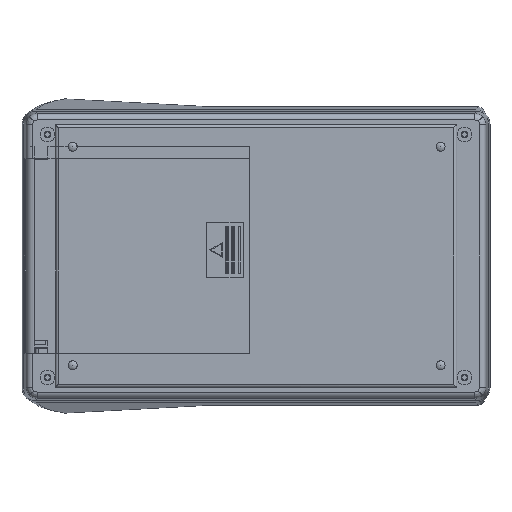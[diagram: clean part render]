
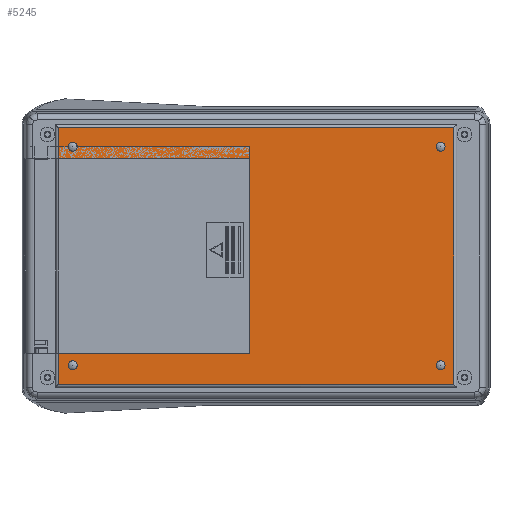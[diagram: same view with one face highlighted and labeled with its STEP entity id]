
A CAD part, front view. The second image highlights one B-rep face of the part: STEP entity #5245.
In plain terms, the highlighted planar face has unit normal (0, -1, 0).
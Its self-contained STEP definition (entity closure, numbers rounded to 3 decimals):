
#87 = ORIENTED_EDGE ( 'NONE', *, *, #3249, .F. ) ;
#232 = DIRECTION ( 'NONE',  ( 0., -1., 0. ) ) ;
#304 = CARTESIAN_POINT ( 'NONE',  ( 63., -16., -40.25 ) ) ;
#359 = ORIENTED_EDGE ( 'NONE', *, *, #9504, .T. ) ;
#382 = CARTESIAN_POINT ( 'NONE',  ( 57.9, -16., -34.3 ) ) ;
#423 = CIRCLE ( 'NONE', #21067, 1.4 ) ;
#884 = CARTESIAN_POINT ( 'NONE',  ( 57.9, -16., -35.7 ) ) ;
#1298 = VERTEX_POINT ( 'NONE', #6833 ) ;
#1657 = CARTESIAN_POINT ( 'NONE',  ( -62., -16., -41.25 ) ) ;
#2101 = VECTOR ( 'NONE', #22397, 1000. ) ;
#2132 = FACE_BOUND ( 'NONE', #14684, .T. ) ;
#2196 = DIRECTION ( 'NONE',  ( 1., 0., 0. ) ) ;
#2205 = EDGE_LOOP ( 'NONE', ( #14676, #15446 ) ) ;
#2224 = DIRECTION ( 'NONE',  ( 0., -1., 0. ) ) ;
#2267 = DIRECTION ( 'NONE',  ( 0., 0., -1. ) ) ;
#2287 = EDGE_CURVE ( 'NONE', #11445, #6952, #5602, .T. ) ;
#2310 = VECTOR ( 'NONE', #5249, 1000. ) ;
#2327 = CARTESIAN_POINT ( 'NONE',  ( -57.5, -16., 34.3 ) ) ;
#2343 = DIRECTION ( 'NONE',  ( 0., -1., 0. ) ) ;
#2407 = CARTESIAN_POINT ( 'NONE',  ( -62., -16., -41.25 ) ) ;
#2627 = CARTESIAN_POINT ( 'NONE',  ( -2., -16., 30.5 ) ) ;
#2645 = CARTESIAN_POINT ( 'NONE',  ( -57.5, -16., 32.9 ) ) ;
#2948 = VERTEX_POINT ( 'NONE', #8708 ) ;
#3063 = EDGE_CURVE ( 'NONE', #1298, #22982, #23010, .T. ) ;
#3249 = EDGE_CURVE ( 'NONE', #9320, #8455, #23303, .T. ) ;
#3421 = AXIS2_PLACEMENT_3D ( 'NONE', #2327, #15534, #4219 ) ;
#3490 = DIRECTION ( 'NONE',  ( 0., -1., 0. ) ) ;
#3984 = DIRECTION ( 'NONE',  ( 0., -1., 0. ) ) ;
#4143 = EDGE_CURVE ( 'NONE', #21985, #11238, #18839, .T. ) ;
#4219 = DIRECTION ( 'NONE',  ( 0., 0., -1. ) ) ;
#4340 = EDGE_CURVE ( 'NONE', #10593, #2948, #4619, .T. ) ;
#4563 = VECTOR ( 'NONE', #5162, 1000. ) ;
#4619 = CIRCLE ( 'NONE', #17144, 1.4 ) ;
#4936 = EDGE_LOOP ( 'NONE', ( #18721, #15535, #12953, #359, #17688, #12359, #12445, #9831 ) ) ;
#5162 = DIRECTION ( 'NONE',  ( -1., 0., 0. ) ) ;
#5245 = ADVANCED_FACE ( 'NONE', ( #7136, #17795, #2132, #21639, #16618 ), #17222, .T. ) ;
#5249 = DIRECTION ( 'NONE',  ( 0., 0., 1. ) ) ;
#5301 = CARTESIAN_POINT ( 'NONE',  ( -2., -16., -30.5 ) ) ;
#5602 = LINE ( 'NONE', #18641, #15638 ) ;
#5894 = CARTESIAN_POINT ( 'NONE',  ( -63., -16., 41.25 ) ) ;
#6165 = EDGE_CURVE ( 'NONE', #22563, #9644, #13629, .T. ) ;
#6365 = EDGE_CURVE ( 'NONE', #9644, #22563, #23367, .T. ) ;
#6833 = CARTESIAN_POINT ( 'NONE',  ( 62., -16., -40.25 ) ) ;
#6952 = VERTEX_POINT ( 'NONE', #2627 ) ;
#7022 = LINE ( 'NONE', #13854, #19162 ) ;
#7136 = FACE_BOUND ( 'NONE', #24001, .T. ) ;
#7248 = ORIENTED_EDGE ( 'NONE', *, *, #4340, .F. ) ;
#7275 = DIRECTION ( 'NONE',  ( 0., -1., 0. ) ) ;
#7279 = DIRECTION ( 'NONE',  ( 0., 0., 1. ) ) ;
#7503 = EDGE_CURVE ( 'NONE', #11334, #11445, #7022, .T. ) ;
#7773 = DIRECTION ( 'NONE',  ( 0., -1., 0. ) ) ;
#7988 = EDGE_CURVE ( 'NONE', #8455, #9320, #21385, .T. ) ;
#8455 = VERTEX_POINT ( 'NONE', #13364 ) ;
#8676 = CARTESIAN_POINT ( 'NONE',  ( -62., -16., -30.5 ) ) ;
#8708 = CARTESIAN_POINT ( 'NONE',  ( 57.9, -16., -32.9 ) ) ;
#8752 = VECTOR ( 'NONE', #15603, 1000. ) ;
#9320 = VERTEX_POINT ( 'NONE', #2645 ) ;
#9438 = EDGE_LOOP ( 'NONE', ( #18175, #87 ) ) ;
#9504 = EDGE_CURVE ( 'NONE', #11334, #15639, #21607, .T. ) ;
#9644 = VERTEX_POINT ( 'NONE', #10935 ) ;
#9831 = ORIENTED_EDGE ( 'NONE', *, *, #4143, .T. ) ;
#10179 = LINE ( 'NONE', #14584, #4563 ) ;
#10593 = VERTEX_POINT ( 'NONE', #884 ) ;
#10935 = CARTESIAN_POINT ( 'NONE',  ( 57.9, -16., 32.9 ) ) ;
#11034 = CARTESIAN_POINT ( 'NONE',  ( -2., -16., 30.5 ) ) ;
#11238 = VERTEX_POINT ( 'NONE', #23150 ) ;
#11334 = VERTEX_POINT ( 'NONE', #8676 ) ;
#11410 = VERTEX_POINT ( 'NONE', #12758 ) ;
#11445 = VERTEX_POINT ( 'NONE', #5301 ) ;
#11482 = AXIS2_PLACEMENT_3D ( 'NONE', #5894, #7773, #21016 ) ;
#11553 = CARTESIAN_POINT ( 'NONE',  ( -57.5, -16., -34.3 ) ) ;
#12143 = CARTESIAN_POINT ( 'NONE',  ( 57.9, -16., 35.7 ) ) ;
#12359 = ORIENTED_EDGE ( 'NONE', *, *, #3063, .T. ) ;
#12445 = ORIENTED_EDGE ( 'NONE', *, *, #20904, .T. ) ;
#12758 = CARTESIAN_POINT ( 'NONE',  ( -57.5, -16., -32.9 ) ) ;
#12953 = ORIENTED_EDGE ( 'NONE', *, *, #7503, .F. ) ;
#13364 = CARTESIAN_POINT ( 'NONE',  ( -57.5, -16., 35.7 ) ) ;
#13461 = DIRECTION ( 'NONE',  ( 0., 0., -1. ) ) ;
#13512 = EDGE_CURVE ( 'NONE', #15639, #1298, #23173, .T. ) ;
#13568 = CARTESIAN_POINT ( 'NONE',  ( 57.9, -16., 34.3 ) ) ;
#13608 = DIRECTION ( 'NONE',  ( 0., -1., 0. ) ) ;
#13629 = CIRCLE ( 'NONE', #16397, 1.4 ) ;
#13680 = CARTESIAN_POINT ( 'NONE',  ( 57.9, -16., -34.3 ) ) ;
#13854 = CARTESIAN_POINT ( 'NONE',  ( -2., -16., -30.5 ) ) ;
#14584 = CARTESIAN_POINT ( 'NONE',  ( -63., -16., 40.25 ) ) ;
#14676 = ORIENTED_EDGE ( 'NONE', *, *, #20968, .F. ) ;
#14684 = EDGE_LOOP ( 'NONE', ( #19669, #7248 ) ) ;
#14804 = CARTESIAN_POINT ( 'NONE',  ( 57.9, -16., 34.3 ) ) ;
#15304 = CARTESIAN_POINT ( 'NONE',  ( -57.5, -16., 34.3 ) ) ;
#15437 = DIRECTION ( 'NONE',  ( 0., 0., -1. ) ) ;
#15446 = ORIENTED_EDGE ( 'NONE', *, *, #18715, .F. ) ;
#15534 = DIRECTION ( 'NONE',  ( 0., -1., 0. ) ) ;
#15535 = ORIENTED_EDGE ( 'NONE', *, *, #2287, .F. ) ;
#15544 = DIRECTION ( 'NONE',  ( 0., 0., -1. ) ) ;
#15603 = DIRECTION ( 'NONE',  ( 0., 0., -1. ) ) ;
#15638 = VECTOR ( 'NONE', #7279, 1000. ) ;
#15639 = VERTEX_POINT ( 'NONE', #18987 ) ;
#15710 = EDGE_CURVE ( 'NONE', #2948, #10593, #19773, .T. ) ;
#15716 = DIRECTION ( 'NONE',  ( 1., 0., 0. ) ) ;
#15896 = AXIS2_PLACEMENT_3D ( 'NONE', #13568, #2224, #15437 ) ;
#16237 = VERTEX_POINT ( 'NONE', #22951 ) ;
#16348 = CARTESIAN_POINT ( 'NONE',  ( -62., -16., 40.25 ) ) ;
#16397 = AXIS2_PLACEMENT_3D ( 'NONE', #14804, #3490, #16698 ) ;
#16618 = FACE_BOUND ( 'NONE', #9438, .T. ) ;
#16648 = VECTOR ( 'NONE', #24265, 1000. ) ;
#16698 = DIRECTION ( 'NONE',  ( 0., 0., -1. ) ) ;
#17144 = AXIS2_PLACEMENT_3D ( 'NONE', #13680, #2343, #15544 ) ;
#17206 = DIRECTION ( 'NONE',  ( 0., 0., -1. ) ) ;
#17222 = PLANE ( 'NONE',  #11482 ) ;
#17273 = ORIENTED_EDGE ( 'NONE', *, *, #6365, .F. ) ;
#17543 = VECTOR ( 'NONE', #2196, 1000. ) ;
#17688 = ORIENTED_EDGE ( 'NONE', *, *, #13512, .T. ) ;
#17795 = FACE_OUTER_BOUND ( 'NONE', #4936, .T. ) ;
#17856 = AXIS2_PLACEMENT_3D ( 'NONE', #382, #13608, #2267 ) ;
#18175 = ORIENTED_EDGE ( 'NONE', *, *, #7988, .F. ) ;
#18481 = CIRCLE ( 'NONE', #20959, 1.4 ) ;
#18484 = CARTESIAN_POINT ( 'NONE',  ( 62., -16., 41.25 ) ) ;
#18635 = CARTESIAN_POINT ( 'NONE',  ( -57.5, -16., -34.3 ) ) ;
#18641 = CARTESIAN_POINT ( 'NONE',  ( -2., -16., -30.5 ) ) ;
#18715 = EDGE_CURVE ( 'NONE', #16237, #11410, #423, .T. ) ;
#18721 = ORIENTED_EDGE ( 'NONE', *, *, #19060, .F. ) ;
#18839 = LINE ( 'NONE', #2407, #8752 ) ;
#18987 = CARTESIAN_POINT ( 'NONE',  ( -62., -16., -40.25 ) ) ;
#19034 = ORIENTED_EDGE ( 'NONE', *, *, #6165, .F. ) ;
#19060 = EDGE_CURVE ( 'NONE', #6952, #11238, #21672, .T. ) ;
#19162 = VECTOR ( 'NONE', #15716, 1000. ) ;
#19669 = ORIENTED_EDGE ( 'NONE', *, *, #15710, .F. ) ;
#19773 = CIRCLE ( 'NONE', #17856, 1.4 ) ;
#20316 = AXIS2_PLACEMENT_3D ( 'NONE', #15304, #3984, #17206 ) ;
#20511 = DIRECTION ( 'NONE',  ( 0., 0., -1. ) ) ;
#20904 = EDGE_CURVE ( 'NONE', #22982, #21985, #10179, .T. ) ;
#20959 = AXIS2_PLACEMENT_3D ( 'NONE', #18635, #7275, #20511 ) ;
#20968 = EDGE_CURVE ( 'NONE', #11410, #16237, #18481, .T. ) ;
#21016 = DIRECTION ( 'NONE',  ( 0., 0., -1. ) ) ;
#21067 = AXIS2_PLACEMENT_3D ( 'NONE', #11553, #232, #13461 ) ;
#21385 = CIRCLE ( 'NONE', #3421, 1.4 ) ;
#21607 = LINE ( 'NONE', #1657, #2101 ) ;
#21639 = FACE_BOUND ( 'NONE', #2205, .T. ) ;
#21672 = LINE ( 'NONE', #11034, #16648 ) ;
#21985 = VERTEX_POINT ( 'NONE', #16348 ) ;
#22397 = DIRECTION ( 'NONE',  ( 0., 0., -1. ) ) ;
#22563 = VERTEX_POINT ( 'NONE', #12143 ) ;
#22951 = CARTESIAN_POINT ( 'NONE',  ( -57.5, -16., -35.7 ) ) ;
#22982 = VERTEX_POINT ( 'NONE', #23187 ) ;
#23010 = LINE ( 'NONE', #18484, #2310 ) ;
#23150 = CARTESIAN_POINT ( 'NONE',  ( -62., -16., 30.5 ) ) ;
#23173 = LINE ( 'NONE', #304, #17543 ) ;
#23187 = CARTESIAN_POINT ( 'NONE',  ( 62., -16., 40.25 ) ) ;
#23303 = CIRCLE ( 'NONE', #20316, 1.4 ) ;
#23367 = CIRCLE ( 'NONE', #15896, 1.4 ) ;
#24001 = EDGE_LOOP ( 'NONE', ( #19034, #17273 ) ) ;
#24265 = DIRECTION ( 'NONE',  ( -1., 0., 0. ) ) ;
